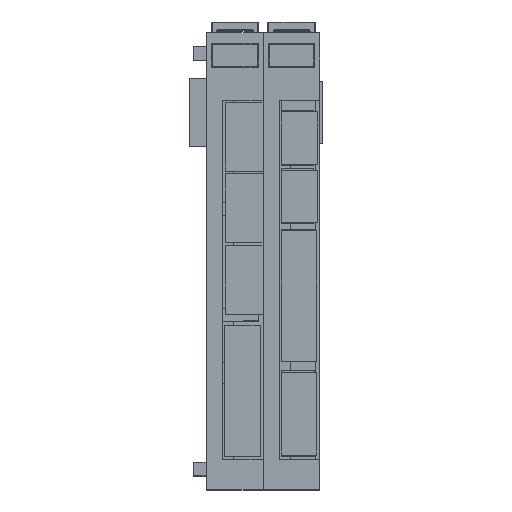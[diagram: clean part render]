
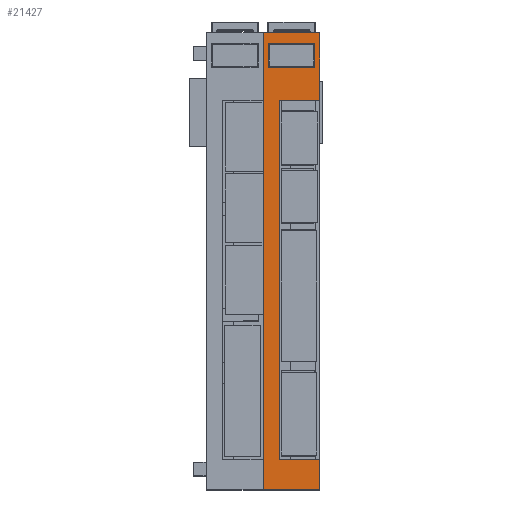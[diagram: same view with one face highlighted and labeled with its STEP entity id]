
A CAD part, top view. The second image highlights one B-rep face of the part: STEP entity #21427.
In plain terms, the highlighted planar face has unit normal (0, 0, 1).
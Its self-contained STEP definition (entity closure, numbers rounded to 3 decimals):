
#569 = DIRECTION ( 'NONE',  ( 0., 0., -1. ) ) ;
#573 = VECTOR ( 'NONE', #13079, 1000. ) ;
#910 = DIRECTION ( 'NONE',  ( 0., 1., 0. ) ) ;
#1407 = VECTOR ( 'NONE', #33183, 1000. ) ;
#1499 = CARTESIAN_POINT ( 'NONE',  ( -1., 46.827, 58.397 ) ) ;
#2150 = LINE ( 'NONE', #2315, #573 ) ;
#2315 = CARTESIAN_POINT ( 'NONE',  ( 0.15, 39.246, 58.397 ) ) ;
#2748 = EDGE_CURVE ( 'NONE', #12710, #20806, #11111, .T. ) ;
#3228 = DIRECTION ( 'NONE',  ( 0., 1., 0. ) ) ;
#3527 = CARTESIAN_POINT ( 'NONE',  ( 11.5, -47.248, 58.397 ) ) ;
#3531 = CARTESIAN_POINT ( 'NONE',  ( 2.5, -47.248, 58.397 ) ) ;
#3679 = VERTEX_POINT ( 'NONE', #12431 ) ;
#4453 = CARTESIAN_POINT ( 'NONE',  ( 11.5, -53.973, 58.397 ) ) ;
#4662 = EDGE_LOOP ( 'NONE', ( #29273, #23565, #30696, #25040, #32762, #10595, #23857, #26884 ) ) ;
#4799 = VERTEX_POINT ( 'NONE', #34420 ) ;
#5126 = LINE ( 'NONE', #22903, #30980 ) ;
#5990 = EDGE_CURVE ( 'NONE', #31183, #4799, #2150, .T. ) ;
#6114 = EDGE_CURVE ( 'NONE', #12067, #34868, #5126, .T. ) ;
#6541 = CARTESIAN_POINT ( 'NONE',  ( 0.15, 39.246, 58.397 ) ) ;
#7789 = LINE ( 'NONE', #17878, #33316 ) ;
#7851 = CARTESIAN_POINT ( 'NONE',  ( -1., -53.973, 58.397 ) ) ;
#8839 = CARTESIAN_POINT ( 'NONE',  ( -1., 31.902, 58.397 ) ) ;
#8854 = LINE ( 'NONE', #19614, #17915 ) ;
#10390 = VECTOR ( 'NONE', #21305, 1000. ) ;
#10595 = ORIENTED_EDGE ( 'NONE', *, *, #27138, .F. ) ;
#10792 = CARTESIAN_POINT ( 'NONE',  ( 2.5, 31.902, 58.397 ) ) ;
#10908 = CARTESIAN_POINT ( 'NONE',  ( -1., -50.873, 58.397 ) ) ;
#11111 = LINE ( 'NONE', #32584, #12776 ) ;
#11317 = DIRECTION ( 'NONE',  ( 1., 0., 0. ) ) ;
#11522 = LINE ( 'NONE', #19633, #1407 ) ;
#12065 = CARTESIAN_POINT ( 'NONE',  ( 11.5, 46.827, 58.397 ) ) ;
#12067 = VERTEX_POINT ( 'NONE', #3527 ) ;
#12431 = CARTESIAN_POINT ( 'NONE',  ( -1., 46.827, 58.397 ) ) ;
#12710 = VERTEX_POINT ( 'NONE', #34689 ) ;
#12776 = VECTOR ( 'NONE', #21683, 1000. ) ;
#12926 = DIRECTION ( 'NONE',  ( -1., 0., 0. ) ) ;
#13019 = ORIENTED_EDGE ( 'NONE', *, *, #34548, .F. ) ;
#13079 = DIRECTION ( 'NONE',  ( 1., 0., 0. ) ) ;
#13942 = DIRECTION ( 'NONE',  ( -1., 0., 0. ) ) ;
#14737 = EDGE_CURVE ( 'NONE', #33777, #17981, #24847, .T. ) ;
#15741 = ORIENTED_EDGE ( 'NONE', *, *, #2748, .F. ) ;
#17009 = VECTOR ( 'NONE', #12926, 1000. ) ;
#17252 = VECTOR ( 'NONE', #11317, 1000. ) ;
#17256 = DIRECTION ( 'NONE',  ( 0., 1., 0. ) ) ;
#17430 = EDGE_CURVE ( 'NONE', #17981, #31968, #23053, .T. ) ;
#17878 = CARTESIAN_POINT ( 'NONE',  ( 0.15, 44.446, 58.397 ) ) ;
#17899 = LINE ( 'NONE', #1499, #21178 ) ;
#17915 = VECTOR ( 'NONE', #910, 1000. ) ;
#17981 = VERTEX_POINT ( 'NONE', #21693 ) ;
#18719 = CARTESIAN_POINT ( 'NONE',  ( 11.5, -53.973, 58.397 ) ) ;
#18984 = EDGE_CURVE ( 'NONE', #21854, #12067, #8854, .T. ) ;
#19614 = CARTESIAN_POINT ( 'NONE',  ( 11.5, -51.973, 58.397 ) ) ;
#19633 = CARTESIAN_POINT ( 'NONE',  ( 10.35, 39.246, 58.397 ) ) ;
#19900 = VERTEX_POINT ( 'NONE', #7851 ) ;
#20806 = VERTEX_POINT ( 'NONE', #22880 ) ;
#21178 = VECTOR ( 'NONE', #28586, 1000. ) ;
#21305 = DIRECTION ( 'NONE',  ( 0., 1., 0. ) ) ;
#21389 = CARTESIAN_POINT ( 'NONE',  ( 2., 43.727, 58.397 ) ) ;
#21427 = ADVANCED_FACE ( 'NONE', ( #24698, #24358 ), #32295, .F. ) ;
#21683 = DIRECTION ( 'NONE',  ( -1., 0., 0. ) ) ;
#21693 = CARTESIAN_POINT ( 'NONE',  ( 11.5, 31.902, 58.397 ) ) ;
#21854 = VERTEX_POINT ( 'NONE', #18719 ) ;
#22413 = EDGE_CURVE ( 'NONE', #20806, #31183, #7789, .T. ) ;
#22435 = EDGE_CURVE ( 'NONE', #21854, #19900, #28565, .T. ) ;
#22880 = CARTESIAN_POINT ( 'NONE',  ( 0.15, 44.446, 58.397 ) ) ;
#22903 = CARTESIAN_POINT ( 'NONE',  ( 3., -47.248, 58.397 ) ) ;
#23053 = LINE ( 'NONE', #34163, #27599 ) ;
#23324 = DIRECTION ( 'NONE',  ( 0., -1., 0. ) ) ;
#23565 = ORIENTED_EDGE ( 'NONE', *, *, #24777, .F. ) ;
#23857 = ORIENTED_EDGE ( 'NONE', *, *, #22435, .F. ) ;
#24086 = LINE ( 'NONE', #10908, #10390 ) ;
#24211 = AXIS2_PLACEMENT_3D ( 'NONE', #21389, #569, #3228 ) ;
#24358 = FACE_OUTER_BOUND ( 'NONE', #4662, .T. ) ;
#24698 = FACE_BOUND ( 'NONE', #29749, .T. ) ;
#24777 = EDGE_CURVE ( 'NONE', #33777, #34868, #31929, .T. ) ;
#24847 = LINE ( 'NONE', #8839, #17252 ) ;
#25040 = ORIENTED_EDGE ( 'NONE', *, *, #17430, .T. ) ;
#26456 = DIRECTION ( 'NONE',  ( 0., -1., 0. ) ) ;
#26884 = ORIENTED_EDGE ( 'NONE', *, *, #18984, .T. ) ;
#27138 = EDGE_CURVE ( 'NONE', #19900, #3679, #24086, .T. ) ;
#27599 = VECTOR ( 'NONE', #17256, 1000. ) ;
#28565 = LINE ( 'NONE', #4453, #17009 ) ;
#28586 = DIRECTION ( 'NONE',  ( 1., 0., 0. ) ) ;
#29273 = ORIENTED_EDGE ( 'NONE', *, *, #6114, .T. ) ;
#29303 = EDGE_CURVE ( 'NONE', #3679, #31968, #17899, .T. ) ;
#29749 = EDGE_LOOP ( 'NONE', ( #13019, #32629, #33217, #15741 ) ) ;
#30696 = ORIENTED_EDGE ( 'NONE', *, *, #14737, .T. ) ;
#30980 = VECTOR ( 'NONE', #13942, 1000. ) ;
#31183 = VERTEX_POINT ( 'NONE', #6541 ) ;
#31929 = LINE ( 'NONE', #10792, #34462 ) ;
#31968 = VERTEX_POINT ( 'NONE', #12065 ) ;
#32295 = PLANE ( 'NONE',  #24211 ) ;
#32584 = CARTESIAN_POINT ( 'NONE',  ( 10.35, 44.446, 58.397 ) ) ;
#32629 = ORIENTED_EDGE ( 'NONE', *, *, #5990, .F. ) ;
#32762 = ORIENTED_EDGE ( 'NONE', *, *, #29303, .F. ) ;
#33183 = DIRECTION ( 'NONE',  ( 0., 1., 0. ) ) ;
#33217 = ORIENTED_EDGE ( 'NONE', *, *, #22413, .F. ) ;
#33316 = VECTOR ( 'NONE', #23324, 1000. ) ;
#33777 = VERTEX_POINT ( 'NONE', #33815 ) ;
#33815 = CARTESIAN_POINT ( 'NONE',  ( 2.5, 31.902, 58.397 ) ) ;
#34163 = CARTESIAN_POINT ( 'NONE',  ( 11.5, 44.827, 58.397 ) ) ;
#34420 = CARTESIAN_POINT ( 'NONE',  ( 10.35, 39.246, 58.397 ) ) ;
#34462 = VECTOR ( 'NONE', #26456, 1000. ) ;
#34548 = EDGE_CURVE ( 'NONE', #4799, #12710, #11522, .T. ) ;
#34689 = CARTESIAN_POINT ( 'NONE',  ( 10.35, 44.446, 58.397 ) ) ;
#34868 = VERTEX_POINT ( 'NONE', #3531 ) ;
